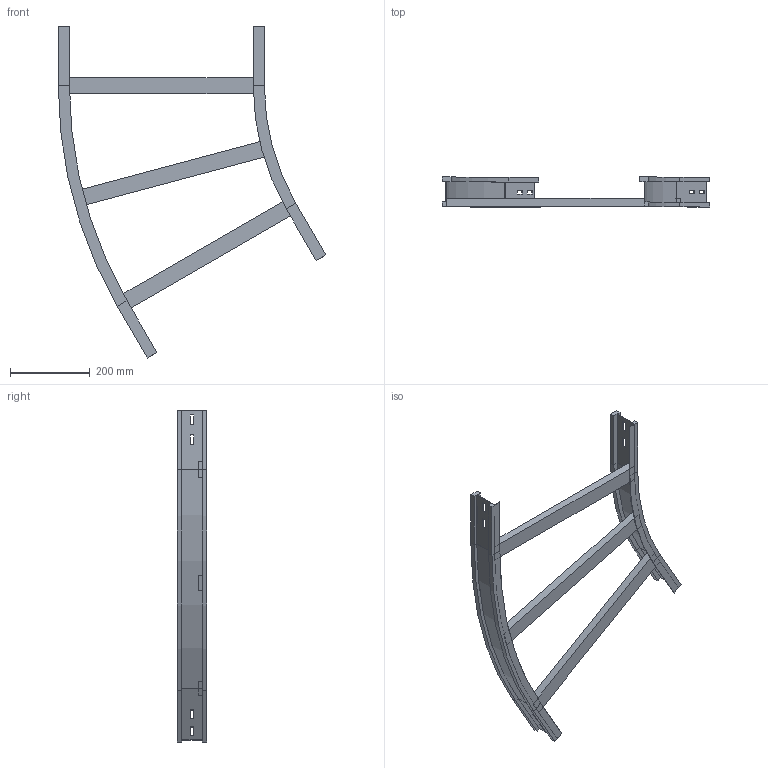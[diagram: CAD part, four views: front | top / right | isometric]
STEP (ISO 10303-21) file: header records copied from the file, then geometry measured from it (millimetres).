
FILE_DESCRIPTION (( 'STEP AP214' ), '1' );
FILE_NAME ('12S6C500.step', '2025-02-21T16:02:39', ( '' ), ( '' ), 'SwSTEP 2.0', 'SolidWorks 2023', '' );
FILE_SCHEMA (( 'AUTOMOTIVE_DESIGN' ));
Length unit declared in the file: millimetre
Products named in the file (4): LONGH.INTERNO 30°_H75_R600; 12S6C500; TRAVERSINO_500; LONGH.ESTERNO 30°_H75_R600+500
Assembly tree (5 placements, depth 2):
  12S6C500
    LONGH.INTERNO 30°_H75_R600
    LONGH.ESTERNO 30°_H75_R600+500
    TRAVERSINO_500  x3
Bounding box: 672.18 x 75 x 834.4 mm (x, y, z)
Volume: 1939265.6 mm3; surface area: 552517.1 mm2
Topology: 5 solids, 5 shells, 126 faces, 300 edges, 184 vertices
Faces by surface type: plane 114, cylinder 12
Entity records: 3389 total; most frequent: CARTESIAN_POINT 566, ORIENTED_EDGE 552, DIRECTION 544, EDGE_CURVE 276, VECTOR 252, LINE 252, VERTEX_POINT 168, AXIS2_PLACEMENT_3D 146
